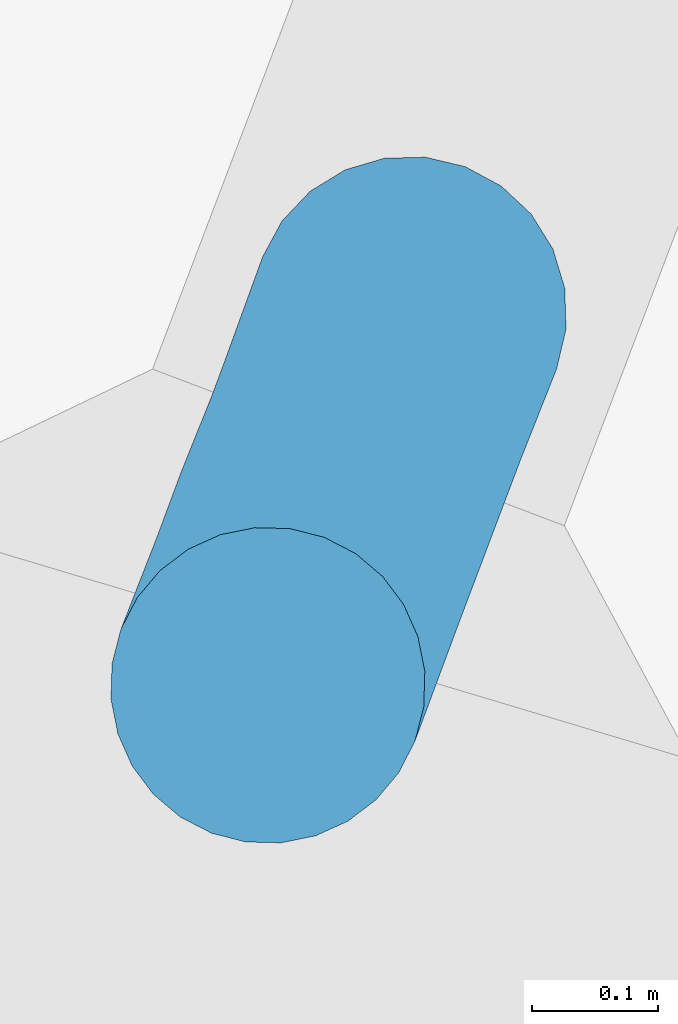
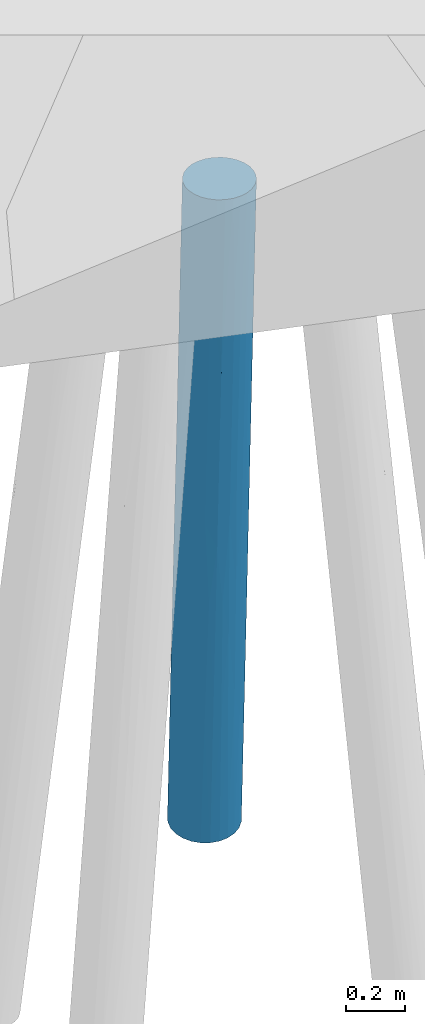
# One storey, part 6 of 46: 1 pile.
"""IFC2X3 building model written with IfcOpenShell, lengths in millimetres."""

from ifc_helpers import new_model, entity, si_unit, converted_unit, derived_unit, direction, frame, origin, place, context, subcontext, project, spatial, faceted_brep, source, transform, mapped, material, type_object, type_shapes, element, save


model = new_model("IFC2X3")

# Units and contexts
model_context = context("Model", 3, precision=0.01, world=origin(), true_north=direction((6.123233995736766e-17, 1.0)))
body_context = subcontext(model_context, "Body", "Model", "MODEL_VIEW")
ifc_project = project(units=[si_unit("LENGTHUNIT", "METRE", prefix="MILLI"), converted_unit("PLANEANGLEUNIT", "DEGREE", entity("IfcPlaneAngleMeasure", 0.017453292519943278), si_unit("PLANEANGLEUNIT", "RADIAN"), dimensions=[0, 0, 0, 0, 0, 0, 0]), si_unit("AREAUNIT", "SQUARE_METRE"), derived_unit("THERMALTRANSMITTANCEUNIT", [(si_unit("MASSUNIT", "GRAM", prefix="KILO"), 1), (si_unit("THERMODYNAMICTEMPERATUREUNIT", "KELVIN"), -1), (si_unit("TIMEUNIT", "SECOND"), -3)])], contexts=[model_context])

# Site, building, storey
site_placement = place(None, frame((-72937.88054949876, 11621.45624098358, 0.0), z_axis=(0.0, 0.0, 1.0), x_axis=(0.9346418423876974, -0.35559053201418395, 0.0)))
site = spatial("IfcSite", under=ifc_project, at=site_placement, Name="Default", CompositionType="ELEMENT")
building_placement = place(site_placement, origin())
building = spatial("IfcBuilding", under=site, at=building_placement, CompositionType="ELEMENT")
storey_placement = place(building_placement, origin())
storey = spatial("IfcBuildingStorey", under=building, at=storey_placement, Name="00 begane grond", CompositionType="ELEMENT", Elevation=0.0)

# Pile
ifc_material = material(Name="beton_gewapend_prefab-element_c45/55")
type_product = type_object("IfcTypeProduct", Name="Type 01", material=ifc_material)
shared_shape = source(origin(), body_context, "Body", "Brep", [
    faceted_brep([(124.838162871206, -27.815116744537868, -1150.0), (115.53639022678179, -54.2354673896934, -1150.0), (72.36643070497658, -41.239861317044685, -1587.2480771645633), (-111.09194578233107, -54.23546738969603, -1150.0), (-165.1894529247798, -41.33003827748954, -1588.444859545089), (-182.07875772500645, -65.1457063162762, -1842.6627389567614), (-30.14575159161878, -64.60051474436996, -2410.3553271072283), (32.98344934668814, -64.94314047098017, -1840.3127773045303), (15.031797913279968, -88.27496307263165, -1836.1297740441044), (41.77006032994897, 0.0, -1925.9925992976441), (100.55257203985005, -77.9362252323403, -1150.0), (80.6380595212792, -97.7289353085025, -1150.0), (-180.54618184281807, -99.16916754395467, -3483.986786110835), (-108.1734310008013, -106.74566752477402, -2732.5343267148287), (-175.6519081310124, -115.48494156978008, -3184.0354063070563), (-42.91884640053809, -117.90464735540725, -1932.203812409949), (56.79144948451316, -112.62110848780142, -1150.0), (30.20851053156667, -121.8659890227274, -1150.0), (-120.39371842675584, -27.81511674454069, -1150.0), (-242.98263969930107, -88.62069146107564, -2558.5627355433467), (-162.25875578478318, -88.50075404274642, -1830.9574517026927), (-245.70385641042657, -64.88368548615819, -2413.843724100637), (-194.4421984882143, -32.35238063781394, -4013.333582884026), (-133.56769714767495, -28.49629953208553, -3474.2266886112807), (-151.93048965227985, -53.33845094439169, -3561.073967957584), (12.222467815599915, -106.275938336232, -1655.8961403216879), (-23.42762089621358, -124.20079095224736, -1508.642990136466), (-80.64748703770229, -124.2366812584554, -1770.9263967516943), (-73.06982999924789, -124.27812918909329, -1949.101189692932), (-265.024992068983, -123.93060767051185, -3407.479310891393), (-314.4444444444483, -125.0, -4000.0), (-240.21076201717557, -123.93060767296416, -3479.642475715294), (-190.20897761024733, 0.0, -4013.803940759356), (-117.33081280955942, 0.0, -3357.900457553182), (-25.764066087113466, -121.86598902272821, -1150.0), (2.2222222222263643, -125.0, -1150.0), (-317.9689709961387, -23.60182842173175, -2920.157783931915), (-375.26894382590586, -28.366113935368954, -3445.0277270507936), (-326.96702366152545, -47.83542903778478, -3066.9425894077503), (-73.70805836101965, -23.187811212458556, -2945.6497765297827), (16.085837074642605, -41.18767244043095, -2093.938466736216), (-39.92708990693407, -41.47720200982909, -2597.136214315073), (-183.66520352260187, -123.01104339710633, -3024.1067526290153), (-196.28435151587, -123.47165352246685, -2760.09510592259), (-252.3267110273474, -108.25317547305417, -4006.901970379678), (-226.59670338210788, -88.38834764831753, -4009.7608601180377), (-206.8533741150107, -62.49999999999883, -4011.9545633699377), (-148.27550792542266, -76.09517863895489, -3402.494577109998), (-119.74622127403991, -106.37235269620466, -1653.229951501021), (-99.40312932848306, -118.21391771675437, -1696.7443345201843), (-52.347005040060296, -112.62110848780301, -1150.0), (-238.2779479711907, -106.2597512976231, -2718.3665211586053), (-185.92128902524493, -102.46025049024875, -2194.904710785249), (-42.820885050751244, -102.58547775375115, -2202.1491422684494), (-156.2252162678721, -118.09364807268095, -2204.9892079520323), (-264.72929865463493, -115.48494155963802, -3119.3954545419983), (-319.0271104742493, -115.48494156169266, -3608.075760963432), (-76.19361507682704, -97.72893530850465, -1150.0), (-96.10812759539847, -77.93622523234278, -1150.0), (-44.45199380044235, 0.0, -2701.9910864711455), (-1.3402226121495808, 0.0, -2313.985145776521), (-292.9202820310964, -72.79893776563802, -2886.1326580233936), (-292.6922084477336, -91.63383624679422, -3034.349570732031), (-282.2899395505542, -120.74072828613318, -4003.5727227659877), (-227.3188222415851, -115.48494156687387, -3649.037633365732), (-209.76851175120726, 0.0, -1925.9934634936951), (-221.60043037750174, -41.38232604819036, -2096.3096577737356), (-376.56217786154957, -108.25317547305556, -3993.0980296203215), (-346.59894933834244, -120.74072828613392, -3996.4272772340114), (-66.21715172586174, -88.15377228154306, -2568.4634430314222), (-129.97696806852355, -118.32629651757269, -2704.7019880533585), (-123.5470158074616, 0.0, -1150.0), (-377.52744650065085, -52.97984274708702, -3542.5215927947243), (-345.70385271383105, -76.09517862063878, -3383.3196685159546), (-275.8885685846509, -42.22399193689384, -2587.6075033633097), (-422.0355147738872, -62.50000000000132, -3988.0454366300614), (-402.29218550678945, -88.38834764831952, -3990.239139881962), (-331.8470727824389, -99.16916753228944, -3467.5525053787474), (-132.4434459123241, -124.68323586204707, -2281.458802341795), (-96.52658231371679, -47.8354290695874, -3084.4998642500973), (-89.11715414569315, -71.65077909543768, -2899.5648185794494), (127.99146025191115, 0.0, -1150.0), (-252.87925972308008, 0.0, -2313.9901952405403), (-122.93481462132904, -90.89446365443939, -3053.447507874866), (-434.4466904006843, -32.352380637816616, -3986.6664171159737), (-438.679911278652, 0.0, -3986.1960592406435), (-141.73877836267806, -124.16072599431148, -2576.5969257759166), (-210.06991733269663, -117.23436667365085, -2667.8819222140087), (-295.9900076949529, 0.0, -2701.9869269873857), (-367.3349594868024, 0.0, -3344.0914931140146), (124.83816287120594, 27.815116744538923, -1150.0), (115.53639022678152, 54.23546738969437, -1150.0), (100.55257203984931, 77.93622523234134, -1150.0), (80.63805952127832, 97.7289353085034, -1150.0), (56.79144948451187, 112.62110848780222, -1150.0), (30.20851053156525, 121.86598902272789, -1150.0), (2.22222222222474, 125.0, -1150.0), (-25.76406608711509, 121.86598902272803, -1150.0), (-52.34700504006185, 112.62110848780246, -1150.0), (-76.1936150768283, 97.72893530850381, -1150.0), (-96.10812759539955, 77.93622523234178, -1150.0), (-111.09194578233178, 54.23546738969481, -1150.0), (-120.39371842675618, 27.815116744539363, -1150.0), (-96.52658225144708, 47.83542901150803, -3084.4998639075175), (-133.5676976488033, 28.496299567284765, -3474.2266930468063), (-151.9304895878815, 53.338451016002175, -3561.073967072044), (-176.7825211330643, 87.58614607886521, -1953.453255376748), (-126.78568187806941, 88.44799753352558, -1511.2211246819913), (-140.32328536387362, 105.94191584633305, -1832.1538289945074), (-185.53475823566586, 41.3488976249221, -1771.6124540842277), (-98.5233768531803, 124.24251446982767, -1932.2861052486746), (-159.3540506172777, 67.83984168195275, -1653.46778938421), (-221.49211536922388, 66.66107193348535, -2205.8974607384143), (-402.2921855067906, 88.38834764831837, -3990.239139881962), (-352.8086337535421, 76.09517892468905, -3447.262699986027), (-312.10423006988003, 99.16916769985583, -3289.866922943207), (-282.2899395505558, 120.74072828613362, -4003.5727227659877), (-314.44444444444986, 125.0, -4000.0), (-235.4135805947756, 123.93060766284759, -3436.467843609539), (-362.94366171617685, 26.27355326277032, -3329.855963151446), (-328.2998352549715, 47.83542988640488, -3078.9378969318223), (-384.2243809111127, 47.83542945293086, -3582.258806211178), (-376.562177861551, 108.25317547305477, -3993.0980296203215), (-180.54618171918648, 99.16916751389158, -3483.9867853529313), (-148.27550783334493, 76.0951785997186, -3402.49457655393), (-226.59670338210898, 88.38834764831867, -4009.7608601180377), (-163.5203657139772, 118.46525212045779, -2280.489865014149), (-104.92272192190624, 118.27912572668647, -1748.143371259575), (-89.11715398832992, 71.6507788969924, -2899.5648184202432), (-39.927089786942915, 41.4772017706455, -2597.1362139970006), (-274.28881423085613, 82.15433137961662, -2785.484682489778), (-221.11735801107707, 106.04994682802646, -2560.8655013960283), (-422.03551477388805, 62.49999999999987, -3988.0454366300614), (-434.4466904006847, 32.35238063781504, -3986.6664171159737), (-180.90977316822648, 122.95522291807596, -3002.0876370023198), (-141.73877802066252, 124.16072595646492, -2576.596925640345), (-129.97696798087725, 118.32629644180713, -2704.701989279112), (-180.2811496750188, 124.04234815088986, -2652.685215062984), (-242.59310629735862, 123.930607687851, -3205.592340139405), (-232.5682987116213, 117.68101498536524, -2881.4778788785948), (-301.7888662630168, 115.48494161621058, -3452.931564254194), (-346.598949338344, 120.7407282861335, -3996.4272772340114), (-206.85337411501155, 62.50000000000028, -4011.9545633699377), (-42.918846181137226, 117.90464729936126, -1932.2038118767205), (-83.49872980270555, 124.18127902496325, -2050.8284888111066), (-29.55955353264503, 124.19873841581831, -1563.9938530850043), (15.03179802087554, 88.27496298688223, -1836.1297738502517), (32.983449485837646, 64.94314037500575, -1840.3127765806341), (-30.14575143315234, 64.60051457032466, -2410.3553266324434), (-42.820884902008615, 102.58547764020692, -2202.149142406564), (12.222467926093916, 106.27593827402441, -1655.89614023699), (-73.70805863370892, 23.18781108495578, -2945.6497792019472), (16.08583725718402, 41.18767230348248, -2093.9384655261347), (72.36643080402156, 41.2398612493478, -1587.2480764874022), (-221.94118502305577, 91.78881553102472, -2399.105716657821), (-108.17343087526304, 106.7456674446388, -2732.5343267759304), (-66.2171515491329, 88.15377212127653, -2568.463442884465), (-122.93481449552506, 90.89446347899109, -3053.447508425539), (-262.27997921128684, 34.77836369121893, -2443.29023072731), (-227.3188223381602, 115.48494155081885, -3649.037634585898), (-252.32671102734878, 108.25317547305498, -4006.901970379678), (-277.036285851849, 61.03344887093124, -2675.5040755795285), (-194.44219848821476, 32.35238063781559, -4013.333582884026), (-312.1095376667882, 26.52940126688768, -2872.8494770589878), (-175.65190824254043, 115.48494153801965, -3184.035408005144)], [[[0, 1, 2]], [[3, 4, 5]], [[6, 7, 8]], [[9, 0, 2]], [[8, 10, 11]], [[12, 13, 14]], [[15, 16, 17]], [[4, 3, 18]], [[19, 20, 21]], [[22, 23, 24]], [[11, 16, 25]], [[26, 27, 28]], [[29, 30, 31]], [[32, 33, 23]], [[10, 8, 7]], [[34, 27, 35]], [[36, 37, 38]], [[33, 39, 23]], [[40, 6, 41]], [[42, 43, 29]], [[44, 45, 12]], [[20, 5, 21]], [[26, 17, 35]], [[45, 46, 47]], [[48, 49, 50]], [[19, 51, 52]], [[53, 25, 15]], [[46, 24, 47]], [[48, 54, 49]], [[55, 56, 29]], [[57, 58, 20]], [[40, 59, 60, 9]], [[61, 62, 19]], [[2, 7, 40]], [[63, 44, 64]], [[65, 66, 4]], [[3, 5, 58]], [[20, 52, 48]], [[67, 68, 56]], [[29, 43, 55]], [[69, 53, 13]], [[13, 70, 14]], [[18, 71, 65]], [[72, 73, 38]], [[68, 30, 29]], [[74, 36, 38]], [[62, 51, 19]], [[38, 61, 74]], [[37, 72, 38]], [[75, 76, 73]], [[76, 77, 73]], [[57, 20, 48]], [[12, 45, 47]], [[6, 40, 7]], [[78, 54, 43]], [[27, 78, 28]], [[79, 41, 80]], [[81, 0, 9]], [[66, 65, 82]], [[41, 39, 59]], [[13, 12, 83]], [[76, 67, 77]], [[84, 37, 85]], [[21, 61, 19]], [[30, 63, 31]], [[31, 42, 29]], [[47, 80, 83]], [[64, 12, 14]], [[56, 77, 67]], [[51, 62, 77]], [[64, 31, 63]], [[14, 70, 42]], [[1, 10, 7]], [[9, 2, 40]], [[7, 2, 1]], [[6, 8, 69]], [[80, 6, 69]], [[6, 80, 41]], [[65, 4, 18]], [[5, 4, 66]], [[5, 66, 21]], [[58, 5, 20]], [[74, 21, 66]], [[61, 38, 73]], [[78, 43, 86]], [[55, 87, 51]], [[83, 80, 69]], [[79, 80, 47]], [[83, 69, 13]], [[47, 83, 12]], [[53, 69, 8]], [[70, 15, 86]], [[25, 53, 8]], [[70, 53, 15]], [[11, 25, 8]], [[15, 25, 16]], [[39, 41, 79]], [[59, 40, 41]], [[23, 39, 79]], [[33, 59, 39]], [[24, 23, 79]], [[32, 23, 22]], [[47, 24, 79]], [[22, 24, 46]], [[61, 21, 74]], [[62, 73, 77]], [[73, 62, 61]], [[51, 77, 55]], [[87, 55, 43]], [[19, 52, 20]], [[51, 54, 52]], [[27, 49, 54]], [[54, 48, 52]], [[57, 48, 50]], [[70, 13, 53]], [[42, 70, 86]], [[43, 42, 86]], [[14, 42, 31]], [[29, 56, 68]], [[74, 66, 82]], [[88, 89, 36, 82]], [[37, 36, 89]], [[85, 37, 89]], [[72, 84, 75]], [[84, 72, 37]], [[73, 72, 75]], [[43, 54, 87]], [[54, 51, 87]], [[36, 74, 82]], [[77, 56, 55]], [[28, 86, 15]], [[54, 78, 27]], [[86, 28, 78]], [[26, 15, 17]], [[27, 26, 35]], [[15, 26, 28]], [[12, 64, 44]], [[31, 64, 14]], [[27, 34, 49]], [[50, 49, 34]], [[34, 35, 17, 16, 11, 10, 1, 0, 81, 90, 91, 92, 93, 94, 95, 96, 97, 98, 99, 100, 101, 102, 71, 18, 3, 58, 57, 50]], [[103, 104, 105]], [[90, 81, 9]], [[106, 107, 108]], [[109, 102, 101]], [[110, 97, 96]], [[111, 112, 109]], [[113, 114, 115]], [[116, 117, 118]], [[98, 108, 99]], [[119, 120, 121]], [[113, 115, 122]], [[106, 112, 111]], [[123, 124, 125]], [[110, 126, 127]], [[119, 85, 89]], [[65, 71, 102]], [[103, 128, 129]], [[115, 130, 131]], [[108, 127, 126]], [[132, 133, 121]], [[134, 135, 136]], [[137, 138, 139]], [[140, 141, 122]], [[142, 125, 124]], [[143, 144, 145]], [[146, 147, 148]], [[146, 149, 150]], [[130, 115, 114]], [[151, 104, 103]], [[143, 136, 144]], [[9, 152, 153]], [[140, 122, 115]], [[143, 95, 94]], [[98, 97, 127]], [[92, 146, 93]], [[138, 140, 139]], [[131, 130, 154]], [[129, 151, 103]], [[117, 141, 138]], [[118, 117, 138]], [[155, 156, 157]], [[96, 95, 145]], [[109, 158, 65]], [[116, 159, 160]], [[143, 149, 136]], [[153, 91, 90]], [[105, 124, 103]], [[112, 158, 109]], [[146, 148, 156]], [[100, 111, 101]], [[128, 157, 156]], [[147, 92, 91]], [[91, 153, 147]], [[150, 93, 146]], [[156, 155, 149]], [[161, 158, 112]], [[65, 102, 109]], [[113, 132, 114]], [[139, 140, 115]], [[125, 160, 123]], [[152, 9, 60]], [[162, 104, 32]], [[148, 128, 156]], [[138, 137, 134]], [[163, 158, 120]], [[159, 118, 164]], [[121, 114, 132]], [[130, 161, 112]], [[161, 114, 120]], [[112, 106, 154]], [[139, 115, 131]], [[138, 141, 140]], [[163, 120, 119]], [[158, 88, 82, 65]], [[159, 123, 160]], [[155, 157, 123]], [[9, 153, 90]], [[147, 153, 152]], [[147, 152, 148]], [[92, 147, 146]], [[129, 148, 152]], [[128, 103, 124]], [[131, 126, 139]], [[135, 134, 137]], [[108, 126, 131]], [[110, 144, 137]], [[139, 126, 137]], [[110, 137, 126]], [[128, 148, 129]], [[157, 124, 123]], [[124, 157, 128]], [[155, 123, 164]], [[136, 155, 164]], [[156, 149, 146]], [[136, 149, 155]], [[150, 143, 94]], [[143, 150, 149]], [[93, 150, 94]], [[101, 111, 109]], [[129, 152, 60]], [[59, 33, 151]], [[104, 151, 33]], [[32, 104, 33]], [[105, 162, 142]], [[162, 105, 104]], [[124, 105, 142]], [[98, 127, 108]], [[97, 110, 127]], [[134, 164, 118]], [[136, 135, 144]], [[164, 134, 136]], [[138, 134, 118]], [[133, 85, 119]], [[114, 121, 120]], [[133, 119, 121]], [[163, 89, 88]], [[89, 163, 119]], [[88, 158, 163]], [[59, 151, 129]], [[60, 59, 129]], [[100, 99, 107]], [[111, 100, 107]], [[154, 108, 131]], [[108, 107, 99]], [[111, 107, 106]], [[137, 144, 135]], [[145, 110, 96]], [[143, 145, 95]], [[110, 145, 144]], [[118, 159, 116]], [[123, 159, 164]], [[114, 161, 130]], [[158, 161, 120]], [[112, 154, 130]], [[108, 154, 106]], [[141, 117, 116, 160, 125, 142, 162, 32, 22, 46, 45, 44, 63, 30, 68, 67, 76, 75, 84, 85, 133, 132, 113, 122]]]),
])
type_shapes(type_product, [shared_shape])
pile_placement = place(storey_placement, frame((62300.0, 15285.151536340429, 0.0), z_axis=(0.0, 0.0, 1.0), x_axis=(0.0, -1.0, 0.0)))
element("IfcPile", 1, at=pile_placement, inside=storey, type_object=type_product, material=ifc_material, Name="17.21_Prefab funderingspaal rond", ObjectType="prefab paal rond", PredefinedType="NOTDEFINED", context=body_context, shape_type="MappedRepresentation", body=[
    mapped(shared_shape, transform((0.0, 0.0, 0.0), scale=1.0)),
])

save(model, "model.ifc")
